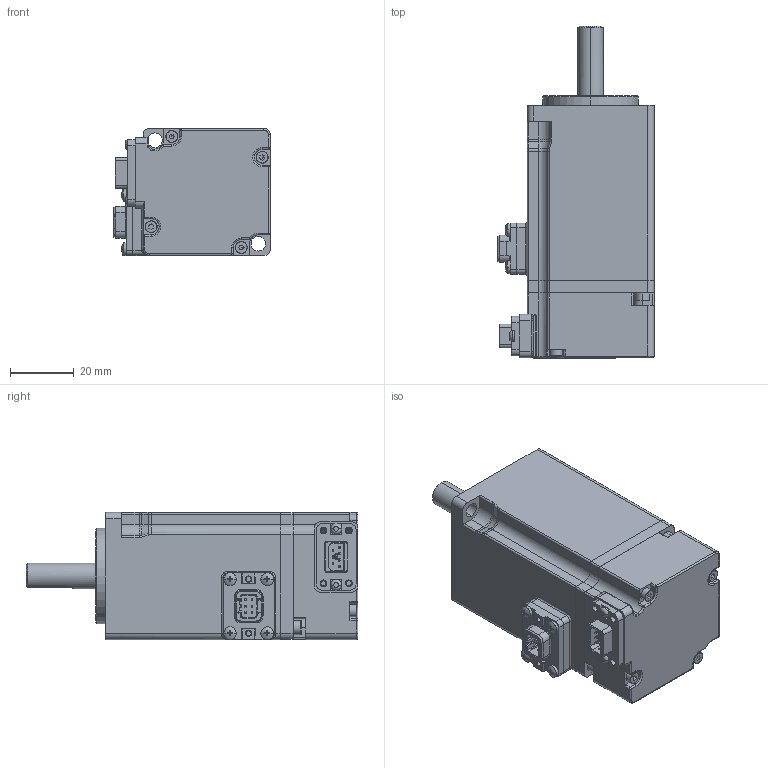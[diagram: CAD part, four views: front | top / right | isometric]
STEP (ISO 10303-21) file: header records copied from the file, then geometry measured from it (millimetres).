
FILE_DESCRIPTION (( 'STEP AP203' ), '1' );
FILE_NAME ('MS6H-40TH30B3-20P1.STEP', '2024-01-25T08:35:23', ( '' ), ( '' ), 'SwSTEP 2.0', 'SolidWorks 2022', '' );
FILE_SCHEMA (( 'CONFIG_CONTROL_DESIGN' ));
Length unit declared in the file: millimetre
Products named in the file (1): MS6H-40TH30B3-20P1
Bounding box: 49.2 x 104.4 x 40 mm (x, y, z)
Surface area: 20276.1 mm2 (no closed solid volume)
Topology: 0 solids, 19 shells, 688 faces, 2242 edges, 1540 vertices
Faces by surface type: plane 372, cylinder 200, torus 52, cone 34, sphere 17, bspline 13
Entity records: 25440 total; most frequent: CARTESIAN_POINT 5796, DIRECTION 4174, ORIENTED_EDGE 3686, EDGE_CURVE 2233, VERTEX_POINT 1540, LINE 1478, VECTOR 1478, AXIS2_PLACEMENT_3D 1348
